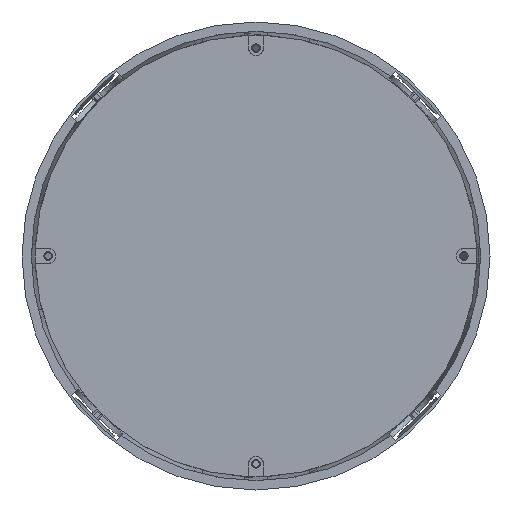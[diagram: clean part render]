
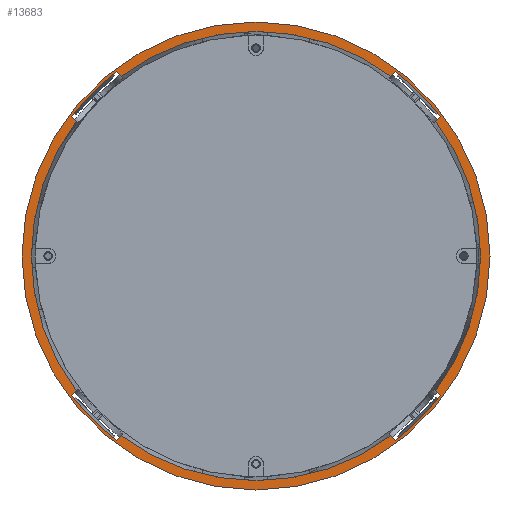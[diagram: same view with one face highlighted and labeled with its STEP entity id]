
A CAD part, front view. The second image highlights one B-rep face of the part: STEP entity #13683.
In plain terms, the highlighted planar face has unit normal (0, -1, 0).
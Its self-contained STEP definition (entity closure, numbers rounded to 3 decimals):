
#53 = VECTOR ( 'NONE', #1182, 1000. ) ;
#73 = CARTESIAN_POINT ( 'NONE',  ( -12.021, -193.374, -12.021 ) ) ;
#118 = ORIENTED_EDGE ( 'NONE', *, *, #13202, .F. ) ;
#134 = VERTEX_POINT ( 'NONE', #12334 ) ;
#172 = ORIENTED_EDGE ( 'NONE', *, *, #4590, .F. ) ;
#210 = CARTESIAN_POINT ( 'NONE',  ( -12.021, -193.374, 12.021 ) ) ;
#353 = EDGE_CURVE ( 'NONE', #3989, #134, #8793, .T. ) ;
#385 = LINE ( 'NONE', #7720, #3364 ) ;
#623 = DIRECTION ( 'NONE',  ( 0.707, 0., -0.707 ) ) ;
#636 = ORIENTED_EDGE ( 'NONE', *, *, #14758, .F. ) ;
#748 = CARTESIAN_POINT ( 'NONE',  ( 125., -193.374, 0. ) ) ;
#904 = DIRECTION ( 'NONE',  ( 1., 0., 0. ) ) ;
#945 = CARTESIAN_POINT ( 'NONE',  ( 0., -193.374, 0. ) ) ;
#1007 = DIRECTION ( 'NONE',  ( 0., 1., 0. ) ) ;
#1175 = DIRECTION ( 'NONE',  ( 0., -1., 0. ) ) ;
#1182 = DIRECTION ( 'NONE',  ( 0.707, 0., -0.707 ) ) ;
#1197 = ORIENTED_EDGE ( 'NONE', *, *, #353, .T. ) ;
#1480 = CIRCLE ( 'NONE', #15740, 119.99 ) ;
#1523 = LINE ( 'NONE', #1856, #5479 ) ;
#1576 = EDGE_CURVE ( 'NONE', #1943, #1973, #15157, .T. ) ;
#1696 = LINE ( 'NONE', #4030, #8086 ) ;
#1735 = DIRECTION ( 'NONE',  ( 1., 0., 0. ) ) ;
#1843 = EDGE_CURVE ( 'NONE', #14589, #6598, #10380, .T. ) ;
#1856 = CARTESIAN_POINT ( 'NONE',  ( 12.021, -193.374, -12.021 ) ) ;
#1943 = VERTEX_POINT ( 'NONE', #8135 ) ;
#1970 = DIRECTION ( 'NONE',  ( 0., 1., 0. ) ) ;
#1973 = VERTEX_POINT ( 'NONE', #2439 ) ;
#2373 = EDGE_CURVE ( 'NONE', #5887, #12731, #14756, .T. ) ;
#2382 = DIRECTION ( 'NONE',  ( 1., 0., 0. ) ) ;
#2387 = LINE ( 'NONE', #14813, #13028 ) ;
#2439 = CARTESIAN_POINT ( 'NONE',  ( 71.969, -193.374, 96.011 ) ) ;
#2493 = DIRECTION ( 'NONE',  ( 1., 0., 0. ) ) ;
#2582 = CARTESIAN_POINT ( 'NONE',  ( 12.021, -193.374, -12.021 ) ) ;
#2719 = DIRECTION ( 'NONE',  ( -0.707, 0., 0.707 ) ) ;
#2830 = CARTESIAN_POINT ( 'NONE',  ( -71.969, -193.374, 96.011 ) ) ;
#2838 = ORIENTED_EDGE ( 'NONE', *, *, #12484, .T. ) ;
#2922 = EDGE_CURVE ( 'NONE', #13571, #8564, #12485, .T. ) ;
#2978 = EDGE_LOOP ( 'NONE', ( #8825 ) ) ;
#3114 = CARTESIAN_POINT ( 'NONE',  ( 0., -193.374, 0. ) ) ;
#3174 = DIRECTION ( 'NONE',  ( 1., 0., 0. ) ) ;
#3198 = FACE_BOUND ( 'NONE', #3511, .T. ) ;
#3253 = EDGE_CURVE ( 'NONE', #5887, #4582, #5146, .T. ) ;
#3364 = VECTOR ( 'NONE', #623, 1000. ) ;
#3439 = AXIS2_PLACEMENT_3D ( 'NONE', #12732, #4229, #4457 ) ;
#3511 = EDGE_LOOP ( 'NONE', ( #4901, #2838, #118, #7366, #636, #7607, #5182, #1197, #5347, #13293, #14683, #13388, #5003, #3702, #172, #3737 ) ) ;
#3605 = DIRECTION ( 'NONE',  ( 0., 1., 0. ) ) ;
#3702 = ORIENTED_EDGE ( 'NONE', *, *, #3253, .T. ) ;
#3737 = ORIENTED_EDGE ( 'NONE', *, *, #2922, .T. ) ;
#3989 = VERTEX_POINT ( 'NONE', #5020 ) ;
#3996 = CARTESIAN_POINT ( 'NONE',  ( 71.969, -193.374, -96.011 ) ) ;
#4030 = CARTESIAN_POINT ( 'NONE',  ( 12.021, -193.374, 12.021 ) ) ;
#4229 = DIRECTION ( 'NONE',  ( 0., -1., 0. ) ) ;
#4376 = CARTESIAN_POINT ( 'NONE',  ( -96.011, -193.374, 71.969 ) ) ;
#4457 = DIRECTION ( 'NONE',  ( 1., 0., 0. ) ) ;
#4582 = VERTEX_POINT ( 'NONE', #13612 ) ;
#4590 = EDGE_CURVE ( 'NONE', #13571, #4582, #2387, .T. ) ;
#4608 = EDGE_CURVE ( 'NONE', #3989, #6598, #12409, .T. ) ;
#4791 = CARTESIAN_POINT ( 'NONE',  ( 98.513, -193.374, -74.472 ) ) ;
#4901 = ORIENTED_EDGE ( 'NONE', *, *, #9614, .F. ) ;
#5003 = ORIENTED_EDGE ( 'NONE', *, *, #2373, .F. ) ;
#5020 = CARTESIAN_POINT ( 'NONE',  ( -98.513, -193.374, 74.472 ) ) ;
#5117 = VECTOR ( 'NONE', #9829, 1000. ) ;
#5146 = CIRCLE ( 'NONE', #8450, 119.99 ) ;
#5182 = ORIENTED_EDGE ( 'NONE', *, *, #4608, .F. ) ;
#5184 = VECTOR ( 'NONE', #10109, 1000. ) ;
#5192 = EDGE_CURVE ( 'NONE', #1943, #12731, #7737, .T. ) ;
#5310 = VERTEX_POINT ( 'NONE', #10855 ) ;
#5347 = ORIENTED_EDGE ( 'NONE', *, *, #11355, .F. ) ;
#5479 = VECTOR ( 'NONE', #5552, 1000. ) ;
#5552 = DIRECTION ( 'NONE',  ( 0.707, 0., 0.707 ) ) ;
#5638 = DIRECTION ( 'NONE',  ( 0., 1., 0. ) ) ;
#5774 = AXIS2_PLACEMENT_3D ( 'NONE', #5824, #1007, #5902 ) ;
#5802 = AXIS2_PLACEMENT_3D ( 'NONE', #3114, #1970, #15347 ) ;
#5824 = CARTESIAN_POINT ( 'NONE',  ( 0., -193.374, 0. ) ) ;
#5881 = AXIS2_PLACEMENT_3D ( 'NONE', #12348, #8879, #2493 ) ;
#5887 = VERTEX_POINT ( 'NONE', #14446 ) ;
#5900 = CARTESIAN_POINT ( 'NONE',  ( 74.472, -193.374, -98.513 ) ) ;
#5902 = DIRECTION ( 'NONE',  ( 1., 0., 0. ) ) ;
#5924 = AXIS2_PLACEMENT_3D ( 'NONE', #13678, #11543, #1735 ) ;
#5999 = CARTESIAN_POINT ( 'NONE',  ( 0., -193.374, 0. ) ) ;
#6190 = EDGE_CURVE ( 'NONE', #12200, #1973, #12726, .T. ) ;
#6525 = CIRCLE ( 'NONE', #5774, 123.495 ) ;
#6598 = VERTEX_POINT ( 'NONE', #4376 ) ;
#6814 = DIRECTION ( 'NONE',  ( -0.707, 0., 0.707 ) ) ;
#6834 = AXIS2_PLACEMENT_3D ( 'NONE', #5999, #1175, #2382 ) ;
#7005 = CARTESIAN_POINT ( 'NONE',  ( -96.011, -193.374, -71.969 ) ) ;
#7366 = ORIENTED_EDGE ( 'NONE', *, *, #14616, .T. ) ;
#7607 = ORIENTED_EDGE ( 'NONE', *, *, #1843, .T. ) ;
#7720 = CARTESIAN_POINT ( 'NONE',  ( -12.021, -193.374, -12.021 ) ) ;
#7737 = CIRCLE ( 'NONE', #12802, 123.495 ) ;
#8014 = DIRECTION ( 'NONE',  ( -0.707, 0., -0.707 ) ) ;
#8062 = PLANE ( 'NONE',  #3439 ) ;
#8086 = VECTOR ( 'NONE', #6814, 1000. ) ;
#8135 = CARTESIAN_POINT ( 'NONE',  ( 74.472, -193.374, 98.513 ) ) ;
#8450 = AXIS2_PLACEMENT_3D ( 'NONE', #9369, #15484, #3174 ) ;
#8564 = VERTEX_POINT ( 'NONE', #5900 ) ;
#8632 = DIRECTION ( 'NONE',  ( 1., 0., 0. ) ) ;
#8793 = CIRCLE ( 'NONE', #9799, 123.495 ) ;
#8825 = ORIENTED_EDGE ( 'NONE', *, *, #11114, .T. ) ;
#8879 = DIRECTION ( 'NONE',  ( 0., 1., 0. ) ) ;
#9369 = CARTESIAN_POINT ( 'NONE',  ( 0., -193.374, 0. ) ) ;
#9390 = VECTOR ( 'NONE', #8014, 1000. ) ;
#9614 = EDGE_CURVE ( 'NONE', #11167, #8564, #385, .T. ) ;
#9799 = AXIS2_PLACEMENT_3D ( 'NONE', #945, #14400, #10597 ) ;
#9829 = DIRECTION ( 'NONE',  ( 0.707, 0., 0.707 ) ) ;
#9928 = VERTEX_POINT ( 'NONE', #11511 ) ;
#10109 = DIRECTION ( 'NONE',  ( -0.707, 0., -0.707 ) ) ;
#10380 = CIRCLE ( 'NONE', #5802, 119.99 ) ;
#10411 = VERTEX_POINT ( 'NONE', #748 ) ;
#10597 = DIRECTION ( 'NONE',  ( 1., 0., 0. ) ) ;
#10855 = CARTESIAN_POINT ( 'NONE',  ( -74.472, -193.374, -98.513 ) ) ;
#10924 = CARTESIAN_POINT ( 'NONE',  ( 0., -193.374, 0. ) ) ;
#11114 = EDGE_CURVE ( 'NONE', #10411, #10411, #14181, .T. ) ;
#11120 = LINE ( 'NONE', #210, #5184 ) ;
#11167 = VERTEX_POINT ( 'NONE', #3996 ) ;
#11355 = EDGE_CURVE ( 'NONE', #12200, #134, #1696, .T. ) ;
#11501 = CARTESIAN_POINT ( 'NONE',  ( -12.021, -193.374, 12.021 ) ) ;
#11511 = CARTESIAN_POINT ( 'NONE',  ( -71.969, -193.374, -96.011 ) ) ;
#11543 = DIRECTION ( 'NONE',  ( 0., 1., 0. ) ) ;
#12200 = VERTEX_POINT ( 'NONE', #2830 ) ;
#12334 = CARTESIAN_POINT ( 'NONE',  ( -74.472, -193.374, 98.513 ) ) ;
#12348 = CARTESIAN_POINT ( 'NONE',  ( 0., -193.374, 0. ) ) ;
#12409 = LINE ( 'NONE', #73, #53 ) ;
#12449 = CARTESIAN_POINT ( 'NONE',  ( 0., -193.374, 0. ) ) ;
#12458 = CARTESIAN_POINT ( 'NONE',  ( -98.513, -193.374, -74.472 ) ) ;
#12484 = EDGE_CURVE ( 'NONE', #11167, #9928, #1480, .T. ) ;
#12485 = CIRCLE ( 'NONE', #5924, 123.495 ) ;
#12726 = CIRCLE ( 'NONE', #5881, 119.99 ) ;
#12731 = VERTEX_POINT ( 'NONE', #13659 ) ;
#12732 = CARTESIAN_POINT ( 'NONE',  ( 0., -193.374, 0. ) ) ;
#12802 = AXIS2_PLACEMENT_3D ( 'NONE', #12449, #5638, #904 ) ;
#12959 = FACE_OUTER_BOUND ( 'NONE', #2978, .T. ) ;
#13028 = VECTOR ( 'NONE', #2719, 1000. ) ;
#13202 = EDGE_CURVE ( 'NONE', #5310, #9928, #1523, .T. ) ;
#13293 = ORIENTED_EDGE ( 'NONE', *, *, #6190, .T. ) ;
#13388 = ORIENTED_EDGE ( 'NONE', *, *, #5192, .T. ) ;
#13571 = VERTEX_POINT ( 'NONE', #4791 ) ;
#13612 = CARTESIAN_POINT ( 'NONE',  ( 96.011, -193.374, -71.969 ) ) ;
#13659 = CARTESIAN_POINT ( 'NONE',  ( 98.513, -193.374, 74.472 ) ) ;
#13678 = CARTESIAN_POINT ( 'NONE',  ( 0., -193.374, 0. ) ) ;
#13683 = ADVANCED_FACE ( 'NONE', ( #3198, #12959 ), #8062, .T. ) ;
#14020 = VERTEX_POINT ( 'NONE', #12458 ) ;
#14181 = CIRCLE ( 'NONE', #6834, 125. ) ;
#14400 = DIRECTION ( 'NONE',  ( 0., 1., 0. ) ) ;
#14446 = CARTESIAN_POINT ( 'NONE',  ( 96.011, -193.374, 71.969 ) ) ;
#14589 = VERTEX_POINT ( 'NONE', #7005 ) ;
#14616 = EDGE_CURVE ( 'NONE', #5310, #14020, #6525, .T. ) ;
#14683 = ORIENTED_EDGE ( 'NONE', *, *, #1576, .F. ) ;
#14756 = LINE ( 'NONE', #2582, #5117 ) ;
#14758 = EDGE_CURVE ( 'NONE', #14589, #14020, #11120, .T. ) ;
#14813 = CARTESIAN_POINT ( 'NONE',  ( 12.021, -193.374, 12.021 ) ) ;
#15157 = LINE ( 'NONE', #11501, #9390 ) ;
#15347 = DIRECTION ( 'NONE',  ( 1., 0., 0. ) ) ;
#15484 = DIRECTION ( 'NONE',  ( 0., 1., 0. ) ) ;
#15740 = AXIS2_PLACEMENT_3D ( 'NONE', #10924, #3605, #8632 ) ;
